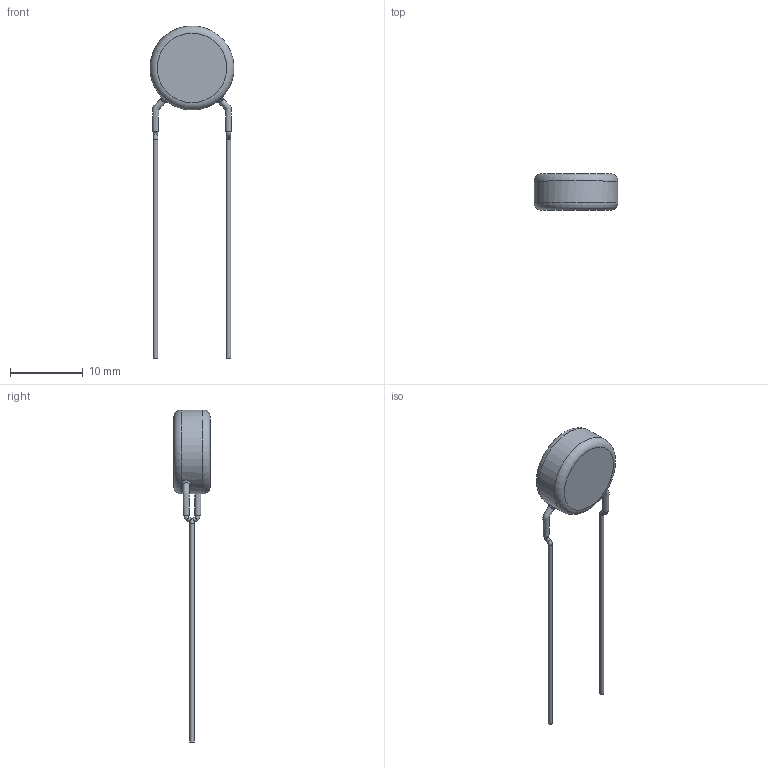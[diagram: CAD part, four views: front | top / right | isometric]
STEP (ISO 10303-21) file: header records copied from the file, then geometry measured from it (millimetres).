
FILE_DESCRIPTION(/* description */ (''),/* implementation_level */ '2;1');
FILE_NAME(/* name */ 'I:\Marketing\M6t1\3D-Models\Zchng-Werk-3\Upload for homepage\BCC\AY2\Inline Dia 0,6 LS 10\AY2392K43Y5US63V0.stp',/* time_stamp */ '2020-11-06T09:00:19+01:00',/* author */ ('truediger'),/* organization */ (''),/* preprocessor_version */ 'ST-DEVELOPER v18',/* originating_system */ 'Autodesk Inventor 2020',/* authorisation */ '');
FILE_SCHEMA (('AUTOMOTIVE_DESIGN { 1 0 10303 214 3 1 1 }'));
Length unit declared in the file: millimetre
Products named in the file (1): Bauteil1
Bounding box: 11.5 x 5 x 45.5 mm (x, y, z)
Volume: 527.8 mm3; surface area: 499.8 mm2
Topology: 1 solids, 1 shells, 29 faces, 73 edges, 48 vertices
Faces by surface type: cylinder 9, bspline 8, torus 6, plane 6
Full cylindrical faces by diameter (mm): 0.6 x4, 11.5 x1
Entity records: 2206 total; most frequent: CARTESIAN_POINT 1465, ORIENTED_EDGE 146, DIRECTION 141, EDGE_CURVE 73, AXIS2_PLACEMENT_3D 68, VERTEX_POINT 48, CIRCLE 44, EDGE_LOOP 31
